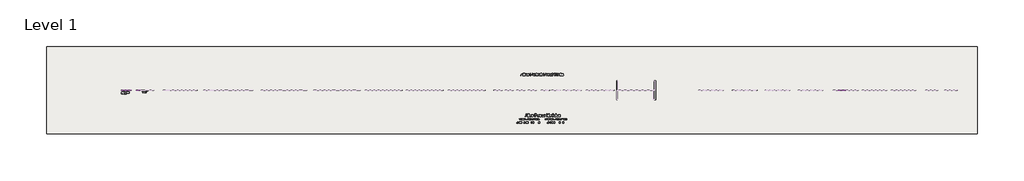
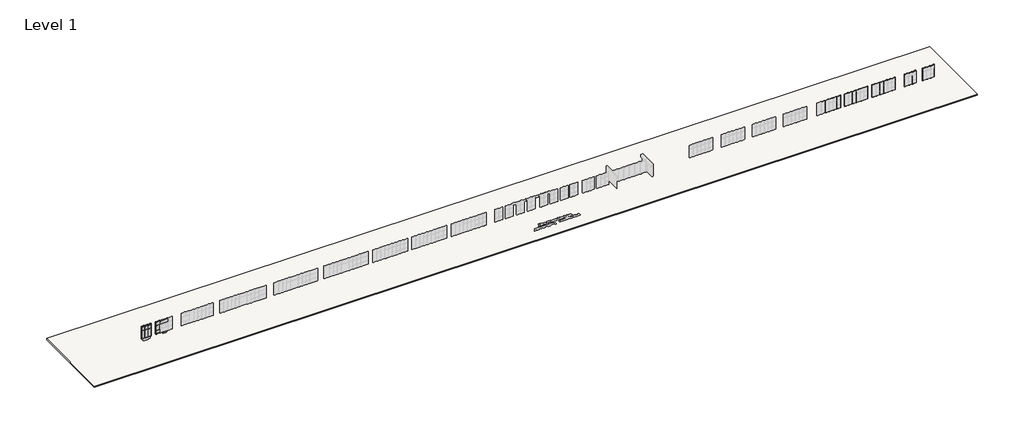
# One storey, part 4 of 22: 72 members, 41 proxies, 1 slab.
"""IFC4 building model written with IfcOpenShell, lengths in millimetres."""

from ifc_helpers import new_model, si_unit, frame, origin, place, context, project, spatial, polyline, outline, extrude, transform, mapped, element, save
from components import fascia_teknion_ceiling_and_base_fpb1_c4170f9c, fascia_teknion_ceiling_and_base_fpb1_a007a032, fascia_teknion_ceiling_and_base_fpb1_8c4cbf86, fascia_teknion_ceiling_and_base_fpb1_7b58b744, fascia_teknion_ceiling_and_base_fpb1_db7fbf47, fascia_teknion_ceiling_and_base_fpb1_da01dcf5, fascia_teknion_ceiling_and_base_fpb1_d08a77d9, fascia_teknion_ceiling_and_base_fpb1_a621ab91, frame_teknion_horizontal_rail_569d168c, level_i_259d5150, level_i_3af106d6, level_ii_eb892959, level_ii_fe5f90b5, level_iii_4beb9e8a, level_iii_939e849f, panel_fascia_teknion_level_iii_81271ac9, panel_fascia_teknion_segmented_level_i_5ebf3f09, panel_fascia_teknion_segmented_level_i_162446fb, panel_fascia_teknion_segmented_level_i_b8129890, panel_fascia_teknion_segmented_level_i_225f9e7f, panel_fascia_teknion_segmented_level_i_2509cfa8, panel_fascia_teknion_segmented_level_i_db7779ad, panel_fascia_teknion_segmented_level_ii_6a035215, panel_fascia_teknion_segmented_level_ii_3678de09, panel_fascia_teknion_segmented_level_ii_8e019854, panel_fascia_teknion_segmented_level_ii_fc398785, panel_fascia_teknion_segmented_level_ii_5e5265e3, panel_fascia_teknion_segmented_level_ii_f3f521e5, rectangular_mullion_7808c36e, rectangular_mullion_a1951c69, rectangular_mullion_54c82f83, rectangular_mullion_553b35be, rectangular_mullion_d5ff06bb, rectangular_mullion_frame_teknion_vertical_post_1d992eec, rectangular_mullion_frame_teknion_vertical_post_bb975e52, rectangular_mullion_frame_teknion_vertical_post_526a61ed, rectangular_mullion_frame_teknion_vertical_post_05f5e206, rectangular_mullion_frame_teknion_vertical_post_5ea4eea9, rectangular_mullion_frame_teknion_vertical_post_1fa3a907

model = new_model("IFC4")

# Units and contexts
model_context = context("Model", 3, world=origin())
ifc_project = project(units=[si_unit("LENGTHUNIT", "METRE", prefix="MILLI")], contexts=[model_context])

# Site, building, storey
site = spatial("IfcSite", under=ifc_project)
building = spatial("IfcBuilding", under=site)
storey = spatial("IfcBuildingStorey", under=building, Name="Level 1", Elevation=0.0)

# Proxies
placement = place(None, origin())
fascia_teknion_ceiling_and_base_fpb1_shape = fascia_teknion_ceiling_and_base_fpb1_c4170f9c(model_context)
element("IfcBuildingElementProxy", 1, Name="Fascia-Teknion-Ceiling_and_Base : FPB1", ObjectType="Fascia-Teknion-Ceiling_and_Base : FPB1", at=placement, inside=storey, context=model_context, shape_type="MappedRepresentation", body=[
    mapped(fascia_teknion_ceiling_and_base_fpb1_shape, transform((-103626.4805069, 1843.3402105, 15.875), x_axis=(-1.0, 0.0, 0.0), y_axis=(0.0, -1.0, 0.0), z_axis=(0.0, 0.0, 1.0))),
])
fascia_teknion_ceiling_and_base_fpb1_2_shape = fascia_teknion_ceiling_and_base_fpb1_a007a032(model_context)
element("IfcBuildingElementProxy", 2, Name="Fascia-Teknion-Ceiling_and_Base : FPB1", ObjectType="Fascia-Teknion-Ceiling_and_Base : FPB1", at=placement, inside=storey, context=model_context, shape_type="MappedRepresentation", body=[
    mapped(fascia_teknion_ceiling_and_base_fpb1_2_shape, transform((-103626.4805069, 1781.3642105, 15.875), x_axis=(-1.0, 0.0, 0.0), y_axis=(0.0, -1.0, 0.0), z_axis=(0.0, 0.0, 1.0))),
])
fascia_teknion_ceiling_and_base_fpb1_3_shape = fascia_teknion_ceiling_and_base_fpb1_8c4cbf86(model_context)
element("IfcBuildingElementProxy", 3, Name="Fascia-Teknion-Ceiling_and_Base : FPB1", ObjectType="Fascia-Teknion-Ceiling_and_Base : FPB1", at=placement, inside=storey, context=model_context, shape_type="MappedRepresentation", body=[
    mapped(fascia_teknion_ceiling_and_base_fpb1_3_shape, transform((-105568.087543, 1762.344815, -91.821), x_axis=(1.0, 0.0, 0.0), y_axis=(0.0, 1.0, 0.0), z_axis=(0.0, 0.0, 1.0))),
])
fascia_teknion_ceiling_and_base_fpb1_4_shape = fascia_teknion_ceiling_and_base_fpb1_7b58b744(model_context)
element("IfcBuildingElementProxy", 4, Name="Fascia-Teknion-Ceiling_and_Base : FPB1", ObjectType="Fascia-Teknion-Ceiling_and_Base : FPB1", at=placement, inside=storey, context=model_context, shape_type="MappedRepresentation", body=[
    mapped(fascia_teknion_ceiling_and_base_fpb1_4_shape, transform((-107078.0976993, 1762.344815, -91.821), x_axis=(1.0, 0.0, 0.0), y_axis=(0.0, 1.0, 0.0), z_axis=(0.0, 0.0, 1.0))),
])
fascia_teknion_ceiling_and_base_fpb1_5_shape = fascia_teknion_ceiling_and_base_fpb1_db7fbf47(model_context)
element("IfcBuildingElementProxy", 5, Name="Fascia-Teknion-Ceiling_and_Base : FPB1", ObjectType="Fascia-Teknion-Ceiling_and_Base : FPB1", at=placement, inside=storey, context=model_context, shape_type="MappedRepresentation", body=[
    mapped(fascia_teknion_ceiling_and_base_fpb1_5_shape, transform((-106323.0926212, 1762.344815, -91.821), x_axis=(1.0, 0.0, 0.0), y_axis=(0.0, 1.0, 0.0), z_axis=(0.0, 0.0, 1.0))),
])
fascia_teknion_ceiling_and_base_fpb1_6_shape = fascia_teknion_ceiling_and_base_fpb1_da01dcf5(model_context)
element("IfcBuildingElementProxy", 6, Name="Fascia-Teknion-Ceiling_and_Base : FPB1", ObjectType="Fascia-Teknion-Ceiling_and_Base : FPB1", at=placement, inside=storey, context=model_context, shape_type="MappedRepresentation", body=[
    mapped(fascia_teknion_ceiling_and_base_fpb1_6_shape, transform((-106323.0926212, 1862.357315, -91.821), x_axis=(1.0, 0.0, 0.0), y_axis=(0.0, 1.0, 0.0), z_axis=(0.0, 0.0, 1.0))),
])
fascia_teknion_ceiling_and_base_fpb1_7_shape = fascia_teknion_ceiling_and_base_fpb1_d08a77d9(model_context)
element("IfcBuildingElementProxy", 7, Name="Fascia-Teknion-Ceiling_and_Base : FPB1", ObjectType="Fascia-Teknion-Ceiling_and_Base : FPB1", at=placement, inside=storey, context=model_context, shape_type="MappedRepresentation", body=[
    mapped(fascia_teknion_ceiling_and_base_fpb1_7_shape, transform((-107078.0976993, 1862.357315, -91.821), x_axis=(1.0, 0.0, 0.0), y_axis=(0.0, 1.0, 0.0), z_axis=(0.0, 0.0, 1.0))),
])
fascia_teknion_ceiling_and_base_fpb1_8_shape = fascia_teknion_ceiling_and_base_fpb1_a621ab91(model_context)
element("IfcBuildingElementProxy", 8, Name="Fascia-Teknion-Ceiling_and_Base : FPB1", ObjectType="Fascia-Teknion-Ceiling_and_Base : FPB1", at=placement, inside=storey, context=model_context, shape_type="MappedRepresentation", body=[
    mapped(fascia_teknion_ceiling_and_base_fpb1_8_shape, transform((-105568.087543, 1862.357315, -91.821), x_axis=(1.0, 0.0, 0.0), y_axis=(0.0, 1.0, 0.0), z_axis=(0.0, 0.0, 1.0))),
])
element("IfcBuildingElementProxy", 9, Name="Fascia-Teknion-Ceiling_and_Base : FPC", ObjectType="Fascia-Teknion-Ceiling_and_Base : FPC", at=placement, inside=storey, context=model_context, shape_type="MappedRepresentation", body=[
    mapped(fascia_teknion_ceiling_and_base_fpb1_shape, transform((-103626.4805069, 1843.3402105, 2900.045), x_axis=(-1.0, 0.0, 0.0), y_axis=(0.0, -1.0, 0.0), z_axis=(0.0, 0.0, 1.0))),
])
element("IfcBuildingElementProxy", 10, Name="Fascia-Teknion-Ceiling_and_Base : FPC", ObjectType="Fascia-Teknion-Ceiling_and_Base : FPC", at=placement, inside=storey, context=model_context, shape_type="MappedRepresentation", body=[
    mapped(fascia_teknion_ceiling_and_base_fpb1_2_shape, transform((-103626.4805069, 1781.3642105, 2950.845), x_axis=(-1.0, 0.0, 0.0), y_axis=(0.0, -1.0, 0.0), z_axis=(0.0, 0.0, 1.0))),
])
element("IfcBuildingElementProxy", 11, Name="Fascia-Teknion-Ceiling_and_Base : FPC", ObjectType="Fascia-Teknion-Ceiling_and_Base : FPC", at=placement, inside=storey, context=model_context, shape_type="MappedRepresentation", body=[
    mapped(fascia_teknion_ceiling_and_base_fpb1_3_shape, transform((-105568.087543, 1762.344815, 2900.045), x_axis=(1.0, 0.0, 0.0), y_axis=(0.0, 1.0, 0.0), z_axis=(0.0, 0.0, 1.0))),
])
element("IfcBuildingElementProxy", 12, Name="Fascia-Teknion-Ceiling_and_Base : FPC", ObjectType="Fascia-Teknion-Ceiling_and_Base : FPC", at=placement, inside=storey, context=model_context, shape_type="MappedRepresentation", body=[
    mapped(fascia_teknion_ceiling_and_base_fpb1_4_shape, transform((-107078.0976993, 1762.344815, 2900.045), x_axis=(1.0, 0.0, 0.0), y_axis=(0.0, 1.0, 0.0), z_axis=(0.0, 0.0, 1.0))),
])
element("IfcBuildingElementProxy", 13, Name="Fascia-Teknion-Ceiling_and_Base : FPC", ObjectType="Fascia-Teknion-Ceiling_and_Base : FPC", at=placement, inside=storey, context=model_context, shape_type="MappedRepresentation", body=[
    mapped(fascia_teknion_ceiling_and_base_fpb1_5_shape, transform((-106323.0926212, 1762.344815, 2900.045), x_axis=(1.0, 0.0, 0.0), y_axis=(0.0, 1.0, 0.0), z_axis=(0.0, 0.0, 1.0))),
])
element("IfcBuildingElementProxy", 14, Name="Fascia-Teknion-Ceiling_and_Base : FPC", ObjectType="Fascia-Teknion-Ceiling_and_Base : FPC", at=placement, inside=storey, context=model_context, shape_type="MappedRepresentation", body=[
    mapped(fascia_teknion_ceiling_and_base_fpb1_6_shape, transform((-106323.0926212, 1862.357315, 2900.045), x_axis=(1.0, 0.0, 0.0), y_axis=(0.0, 1.0, 0.0), z_axis=(0.0, 0.0, 1.0))),
])
element("IfcBuildingElementProxy", 15, Name="Fascia-Teknion-Ceiling_and_Base : FPC", ObjectType="Fascia-Teknion-Ceiling_and_Base : FPC", at=placement, inside=storey, context=model_context, shape_type="MappedRepresentation", body=[
    mapped(fascia_teknion_ceiling_and_base_fpb1_7_shape, transform((-107078.0976993, 1862.357315, 2900.045), x_axis=(1.0, 0.0, 0.0), y_axis=(0.0, 1.0, 0.0), z_axis=(0.0, 0.0, 1.0))),
])
element("IfcBuildingElementProxy", 16, Name="Fascia-Teknion-Ceiling_and_Base : FPC", ObjectType="Fascia-Teknion-Ceiling_and_Base : FPC", at=placement, inside=storey, context=model_context, shape_type="MappedRepresentation", body=[
    mapped(fascia_teknion_ceiling_and_base_fpb1_8_shape, transform((-105568.087543, 1862.357315, 2900.045), x_axis=(1.0, 0.0, 0.0), y_axis=(0.0, 1.0, 0.0), z_axis=(0.0, 0.0, 1.0))),
])
frame_teknion_horizontal_rail_shape = frame_teknion_horizontal_rail_569d168c(model_context)
element("IfcBuildingElementProxy", 17, Name="Frame-Teknion-Horizontal_Rail : FPKK", ObjectType="Frame-Teknion-Horizontal_Rail : FPKK", at=placement, inside=storey, context=model_context, shape_type="MappedRepresentation", body=[
    mapped(frame_teknion_horizontal_rail_shape, transform((-103626.4805069, 1812.3522105, 151.257), x_axis=(-1.0, 0.0, 0.0), y_axis=(0.0, -1.0, 0.0), z_axis=(0.0, 0.0, 1.0))),
])
element("IfcBuildingElementProxy", 18, Name="Frame-Teknion-Horizontal_Rail : FPKK", ObjectType="Frame-Teknion-Horizontal_Rail : FPKK", at=placement, inside=storey, context=model_context, shape_type="MappedRepresentation", body=[
    mapped(frame_teknion_horizontal_rail_shape, transform((-103626.4805069, 1812.3522105, 2898.3305), x_axis=(-1.0, 0.0, 0.0), y_axis=(0.0, -1.0, 0.0), z_axis=(0.0, 0.0, 1.0))),
])
element("IfcBuildingElementProxy", 19, Name="Frame-Teknion-Horizontal_Rail : FPKK", ObjectType="Frame-Teknion-Horizontal_Rail : FPKK", at=placement, inside=storey, context=model_context, shape_type="MappedRepresentation", body=[
    mapped(frame_teknion_horizontal_rail_shape, transform((-103626.4805069, 1812.3522105, 917.575), x_axis=(-1.0, 0.0, 0.0), y_axis=(0.0, -1.0, 0.0), z_axis=(0.0, 0.0, 1.0))),
])
element("IfcBuildingElementProxy", 20, Name="Frame-Teknion-Horizontal_Rail : FPKK", ObjectType="Frame-Teknion-Horizontal_Rail : FPKK", at=placement, inside=storey, context=model_context, shape_type="MappedRepresentation", body=[
    mapped(frame_teknion_horizontal_rail_shape, transform((-103626.4805069, 1812.3522105, 2136.775), x_axis=(-1.0, 0.0, 0.0), y_axis=(0.0, -1.0, 0.0), z_axis=(0.0, 0.0, 1.0))),
])
element("IfcBuildingElementProxy", 21, Name="Frame-Teknion-Horizontal_Rail : FPKK", ObjectType="Frame-Teknion-Horizontal_Rail : FPKK", at=placement, inside=storey, context=model_context, shape_type="MappedRepresentation", body=[
    mapped(frame_teknion_horizontal_rail_shape, transform((-103626.4805069, 1812.3522105, 97.155), x_axis=(-1.0, 0.0, 0.0), y_axis=(0.0, -1.0, 0.0), z_axis=(0.0, 0.0, 1.0))),
])
element("IfcBuildingElementProxy", 22, Name="Frame-Teknion-Horizontal_Rail : FPKK", ObjectType="Frame-Teknion-Horizontal_Rail : FPKK", at=placement, inside=storey, context=model_context, shape_type="MappedRepresentation", body=[
    mapped(frame_teknion_horizontal_rail_shape, transform((-103626.4805069, 1812.3522105, 2949.1305), x_axis=(-1.0, 0.0, 0.0), y_axis=(0.0, -1.0, 0.0), z_axis=(0.0, 0.0, 1.0))),
])
level_i_shape = level_i_259d5150(model_context)
element("IfcBuildingElementProxy", 23, Name="Panel-Fascia-Teknion-Altos-Standard : Level I", ObjectType="Panel-Fascia-Teknion-Altos-Standard : Level I", at=placement, inside=storey, context=model_context, shape_type="MappedRepresentation", body=[
    mapped(level_i_shape, transform((-103626.4805069, 1852.8652105, 151.257), x_axis=(-1.0, 0.0, 0.0), y_axis=(0.0, -1.0, 0.0), z_axis=(0.0, 0.0, 1.0))),
])
level_i_2_shape = level_i_3af106d6(model_context)
element("IfcBuildingElementProxy", 24, Name="Panel-Fascia-Teknion-Altos-Standard : Level I", ObjectType="Panel-Fascia-Teknion-Altos-Standard : Level I", at=placement, inside=storey, context=model_context, shape_type="MappedRepresentation", body=[
    mapped(level_i_2_shape, transform((-103626.4805069, 1771.8392105, 100.457), x_axis=(-1.0, 0.0, 0.0), y_axis=(0.0, -1.0, 0.0), z_axis=(0.0, 0.0, 1.0))),
])
level_ii_shape = level_ii_eb892959(model_context)
element("IfcBuildingElementProxy", 25, Name="Panel-Fascia-Teknion-Altos-Standard : Level II", ObjectType="Panel-Fascia-Teknion-Altos-Standard : Level II", at=placement, inside=storey, context=model_context, shape_type="MappedRepresentation", body=[
    mapped(level_ii_shape, transform((-103626.4805069, 1852.8652105, 917.575), x_axis=(-1.0, 0.0, 0.0), y_axis=(0.0, -1.0, 0.0), z_axis=(0.0, 0.0, 1.0))),
])
level_ii_2_shape = level_ii_fe5f90b5(model_context)
element("IfcBuildingElementProxy", 26, Name="Panel-Fascia-Teknion-Altos-Standard : Level II", ObjectType="Panel-Fascia-Teknion-Altos-Standard : Level II", at=placement, inside=storey, context=model_context, shape_type="MappedRepresentation", body=[
    mapped(level_ii_2_shape, transform((-103626.4805069, 1771.8392105, 917.575), x_axis=(-1.0, 0.0, 0.0), y_axis=(0.0, -1.0, 0.0), z_axis=(0.0, 0.0, 1.0))),
])
level_iii_shape = level_iii_4beb9e8a(model_context)
element("IfcBuildingElementProxy", 27, Name="Panel-Fascia-Teknion-Altos-Standard : Level III", ObjectType="Panel-Fascia-Teknion-Altos-Standard : Level III", at=placement, inside=storey, context=model_context, shape_type="MappedRepresentation", body=[
    mapped(level_iii_shape, transform((-103626.4805069, 1771.8392105, 2136.775), x_axis=(-1.0, 0.0, 0.0), y_axis=(0.0, -1.0, 0.0), z_axis=(0.0, 0.0, 1.0))),
])
level_iii_2_shape = level_iii_939e849f(model_context)
element("IfcBuildingElementProxy", 28, Name="Panel-Fascia-Teknion-Altos-Standard : Level III", ObjectType="Panel-Fascia-Teknion-Altos-Standard : Level III", at=placement, inside=storey, context=model_context, shape_type="MappedRepresentation", body=[
    mapped(level_iii_2_shape, transform((-103626.4805069, 1852.8652105, 2136.775), x_axis=(-1.0, 0.0, 0.0), y_axis=(0.0, -1.0, 0.0), z_axis=(0.0, 0.0, 1.0))),
])
panel_fascia_teknion_level_iii_shape = panel_fascia_teknion_level_iii_81271ac9(model_context)
element("IfcBuildingElementProxy", 29, Name="Panel-Fascia-Teknion : Level III", ObjectType="Panel-Fascia-Teknion : Level III", at=placement, inside=storey, context=model_context, shape_type="MappedRepresentation", body=[
    mapped(panel_fascia_teknion_level_iii_shape, transform((-102160.2754287, 1771.869815, 2136.775), x_axis=(-1.0, 0.0, 0.0), y_axis=(0.0, -1.0, 0.0), z_axis=(0.0, 0.0, 1.0))),
])
panel_fascia_teknion_segmented_level_i_shape = panel_fascia_teknion_segmented_level_i_5ebf3f09(model_context)
element("IfcBuildingElementProxy", 30, Name="Panel-Fascia-Teknion : Segmented Level I", ObjectType="Panel-Fascia-Teknion : Segmented Level I", at=placement, inside=storey, context=model_context, shape_type="MappedRepresentation", body=[
    mapped(panel_fascia_teknion_segmented_level_i_shape, transform((-106323.0926212, 1771.869815, 43.561), x_axis=(1.0, 0.0, 0.0), y_axis=(0.0, 1.0, 0.0), z_axis=(0.0, 0.0, 1.0))),
])
panel_fascia_teknion_segmented_level_i_2_shape = panel_fascia_teknion_segmented_level_i_162446fb(model_context)
element("IfcBuildingElementProxy", 31, Name="Panel-Fascia-Teknion : Segmented Level I", ObjectType="Panel-Fascia-Teknion : Segmented Level I", at=placement, inside=storey, context=model_context, shape_type="MappedRepresentation", body=[
    mapped(panel_fascia_teknion_segmented_level_i_2_shape, transform((-106323.0926212, 1852.832315, 43.561), x_axis=(1.0, 0.0, 0.0), y_axis=(0.0, 1.0, 0.0), z_axis=(0.0, 0.0, 1.0))),
])
panel_fascia_teknion_segmented_level_i_3_shape = panel_fascia_teknion_segmented_level_i_b8129890(model_context)
element("IfcBuildingElementProxy", 32, Name="Panel-Fascia-Teknion : Segmented Level I", ObjectType="Panel-Fascia-Teknion : Segmented Level I", at=placement, inside=storey, context=model_context, shape_type="MappedRepresentation", body=[
    mapped(panel_fascia_teknion_segmented_level_i_3_shape, transform((-107078.0976993, 1771.869815, 43.561), x_axis=(1.0, 0.0, 0.0), y_axis=(0.0, 1.0, 0.0), z_axis=(0.0, 0.0, 1.0))),
])
panel_fascia_teknion_segmented_level_i_4_shape = panel_fascia_teknion_segmented_level_i_225f9e7f(model_context)
element("IfcBuildingElementProxy", 33, Name="Panel-Fascia-Teknion : Segmented Level I", ObjectType="Panel-Fascia-Teknion : Segmented Level I", at=placement, inside=storey, context=model_context, shape_type="MappedRepresentation", body=[
    mapped(panel_fascia_teknion_segmented_level_i_4_shape, transform((-107078.0976993, 1852.832315, 43.561), x_axis=(1.0, 0.0, 0.0), y_axis=(0.0, 1.0, 0.0), z_axis=(0.0, 0.0, 1.0))),
])
panel_fascia_teknion_segmented_level_i_5_shape = panel_fascia_teknion_segmented_level_i_2509cfa8(model_context)
element("IfcBuildingElementProxy", 34, Name="Panel-Fascia-Teknion : Segmented Level I", ObjectType="Panel-Fascia-Teknion : Segmented Level I", at=placement, inside=storey, context=model_context, shape_type="MappedRepresentation", body=[
    mapped(panel_fascia_teknion_segmented_level_i_5_shape, transform((-105568.087543, 1771.869815, 43.561), x_axis=(1.0, 0.0, 0.0), y_axis=(0.0, 1.0, 0.0), z_axis=(0.0, 0.0, 1.0))),
])
panel_fascia_teknion_segmented_level_i_6_shape = panel_fascia_teknion_segmented_level_i_db7779ad(model_context)
element("IfcBuildingElementProxy", 35, Name="Panel-Fascia-Teknion : Segmented Level I", ObjectType="Panel-Fascia-Teknion : Segmented Level I", at=placement, inside=storey, context=model_context, shape_type="MappedRepresentation", body=[
    mapped(panel_fascia_teknion_segmented_level_i_6_shape, transform((-105568.087543, 1852.832315, 43.561), x_axis=(1.0, 0.0, 0.0), y_axis=(0.0, 1.0, 0.0), z_axis=(0.0, 0.0, 1.0))),
])
panel_fascia_teknion_segmented_level_ii_shape = panel_fascia_teknion_segmented_level_ii_6a035215(model_context)
element("IfcBuildingElementProxy", 36, Name="Panel-Fascia-Teknion : Segmented Level II", ObjectType="Panel-Fascia-Teknion : Segmented Level II", at=placement, inside=storey, context=model_context, shape_type="MappedRepresentation", body=[
    mapped(panel_fascia_teknion_segmented_level_ii_shape, transform((-106323.0926212, 1771.869815, 2024.761), x_axis=(1.0, 0.0, 0.0), y_axis=(0.0, 1.0, 0.0), z_axis=(0.0, 0.0, 1.0))),
])
panel_fascia_teknion_segmented_level_ii_2_shape = panel_fascia_teknion_segmented_level_ii_3678de09(model_context)
element("IfcBuildingElementProxy", 37, Name="Panel-Fascia-Teknion : Segmented Level II", ObjectType="Panel-Fascia-Teknion : Segmented Level II", at=placement, inside=storey, context=model_context, shape_type="MappedRepresentation", body=[
    mapped(panel_fascia_teknion_segmented_level_ii_2_shape, transform((-106323.0926212, 1852.832315, 2024.761), x_axis=(1.0, 0.0, 0.0), y_axis=(0.0, 1.0, 0.0), z_axis=(0.0, 0.0, 1.0))),
])
panel_fascia_teknion_segmented_level_ii_3_shape = panel_fascia_teknion_segmented_level_ii_8e019854(model_context)
element("IfcBuildingElementProxy", 38, Name="Panel-Fascia-Teknion : Segmented Level II", ObjectType="Panel-Fascia-Teknion : Segmented Level II", at=placement, inside=storey, context=model_context, shape_type="MappedRepresentation", body=[
    mapped(panel_fascia_teknion_segmented_level_ii_3_shape, transform((-107078.0976993, 1771.869815, 2024.761), x_axis=(1.0, 0.0, 0.0), y_axis=(0.0, 1.0, 0.0), z_axis=(0.0, 0.0, 1.0))),
])
panel_fascia_teknion_segmented_level_ii_4_shape = panel_fascia_teknion_segmented_level_ii_fc398785(model_context)
element("IfcBuildingElementProxy", 39, Name="Panel-Fascia-Teknion : Segmented Level II", ObjectType="Panel-Fascia-Teknion : Segmented Level II", at=placement, inside=storey, context=model_context, shape_type="MappedRepresentation", body=[
    mapped(panel_fascia_teknion_segmented_level_ii_4_shape, transform((-107078.0976993, 1852.832315, 2024.761), x_axis=(1.0, 0.0, 0.0), y_axis=(0.0, 1.0, 0.0), z_axis=(0.0, 0.0, 1.0))),
])
panel_fascia_teknion_segmented_level_ii_5_shape = panel_fascia_teknion_segmented_level_ii_5e5265e3(model_context)
element("IfcBuildingElementProxy", 40, Name="Panel-Fascia-Teknion : Segmented Level II", ObjectType="Panel-Fascia-Teknion : Segmented Level II", at=placement, inside=storey, context=model_context, shape_type="MappedRepresentation", body=[
    mapped(panel_fascia_teknion_segmented_level_ii_5_shape, transform((-105568.087543, 1771.869815, 2024.761), x_axis=(1.0, 0.0, 0.0), y_axis=(0.0, 1.0, 0.0), z_axis=(0.0, 0.0, 1.0))),
])
panel_fascia_teknion_segmented_level_ii_6_shape = panel_fascia_teknion_segmented_level_ii_f3f521e5(model_context)
element("IfcBuildingElementProxy", 41, Name="Panel-Fascia-Teknion : Segmented Level II", ObjectType="Panel-Fascia-Teknion : Segmented Level II", at=placement, inside=storey, context=model_context, shape_type="MappedRepresentation", body=[
    mapped(panel_fascia_teknion_segmented_level_ii_6_shape, transform((-105568.087543, 1852.832315, 2024.761), x_axis=(1.0, 0.0, 0.0), y_axis=(0.0, 1.0, 0.0), z_axis=(0.0, 0.0, 1.0))),
])

# Members
rectangular_mullion_shape = rectangular_mullion_7808c36e(model_context)
element("IfcMember", 42, ObjectType="Rectangular Mullion : Frame-Teknion-OptosLP-Ceiling_Top_Spacer", at=placement, inside=storey, context=model_context, shape_type="MappedRepresentation", body=[
    mapped(rectangular_mullion_shape, transform((74753.5073788, 1812.3522105, 3048.0), x_axis=(0.0, 0.0, 1.0), y_axis=(0.0, -1.0, 0.0), z_axis=(1.0, 0.0, 0.0))),
])
element("IfcMember", 43, ObjectType="Rectangular Mullion : Frame-Teknion-OptosLP-Ceiling_Top_Spacer", at=placement, inside=storey, context=model_context, shape_type="MappedRepresentation", body=[
    mapped(rectangular_mullion_shape, transform((76277.5073788, 1812.3522105, 3048.0), x_axis=(0.0, 0.0, 1.0), y_axis=(0.0, 1.0, 0.0), z_axis=(-1.0, 0.0, 0.0))),
])
rectangular_mullion_2_shape = rectangular_mullion_a1951c69(model_context)
element("IfcMember", 44, ObjectType="Rectangular Mullion : Frame-Teknion-Altos-Base_Channel", at=placement, inside=storey, context=model_context, shape_type="MappedRepresentation", body=[
    mapped(rectangular_mullion_2_shape, transform((72010.3073788, 1812.3522105, 0.0), x_axis=(0.0, 0.0, -1.0), y_axis=(0.0, -1.0, 0.0), z_axis=(-1.0, 0.0, 0.0))),
])
element("IfcMember", 45, ObjectType="Rectangular Mullion : Frame-Teknion-Altos-Base_Channel", at=placement, inside=storey, context=model_context, shape_type="MappedRepresentation", body=[
    mapped(rectangular_mullion_2_shape, transform((79020.7073788, 1812.3522105, 0.0), x_axis=(0.0, 0.0, -1.0), y_axis=(0.0, 1.0, 0.0), z_axis=(1.0, 0.0, 0.0))),
])
element("IfcMember", 46, ObjectType="Rectangular Mullion : Frame-Teknion-OptosLP-Ceiling_Top_Spacer", at=placement, inside=storey, context=model_context, shape_type="MappedRepresentation", body=[
    mapped(rectangular_mullion_shape, transform((72924.7073788, 1812.3522105, 3048.0), x_axis=(0.0, 0.0, 1.0), y_axis=(0.0, -1.0, 0.0), z_axis=(1.0, 0.0, 0.0))),
])
element("IfcMember", 47, ObjectType="Rectangular Mullion : Frame-Teknion-OptosLP-Ceiling_Top_Spacer", at=placement, inside=storey, context=model_context, shape_type="MappedRepresentation", body=[
    mapped(rectangular_mullion_shape, transform((78106.3073788, 1812.3522105, 3048.0), x_axis=(0.0, 0.0, 1.0), y_axis=(0.0, 1.0, 0.0), z_axis=(-1.0, 0.0, 0.0))),
])
element("IfcMember", 48, ObjectType="Rectangular Mullion : Frame-Teknion-Altos-Base_Channel", at=placement, inside=storey, context=model_context, shape_type="MappedRepresentation", body=[
    mapped(rectangular_mullion_2_shape, transform((72924.7073788, 1812.3522105, 0.0), x_axis=(0.0, 0.0, -1.0), y_axis=(0.0, -1.0, 0.0), z_axis=(-1.0, 0.0, 0.0))),
])
element("IfcMember", 49, ObjectType="Rectangular Mullion : Frame-Teknion-Altos-Base_Channel", at=placement, inside=storey, context=model_context, shape_type="MappedRepresentation", body=[
    mapped(rectangular_mullion_2_shape, transform((78106.3073788, 1812.3522105, 0.0), x_axis=(0.0, 0.0, -1.0), y_axis=(0.0, 1.0, 0.0), z_axis=(1.0, 0.0, 0.0))),
])
element("IfcMember", 50, ObjectType="Rectangular Mullion : Frame-Teknion-OptosLP-Ceiling_Top_Spacer", at=placement, inside=storey, context=model_context, shape_type="MappedRepresentation", body=[
    mapped(rectangular_mullion_shape, transform((73839.1073788, 1812.3522105, 3048.0), x_axis=(0.0, 0.0, 1.0), y_axis=(0.0, -1.0, 0.0), z_axis=(1.0, 0.0, 0.0))),
])
element("IfcMember", 51, ObjectType="Rectangular Mullion : Frame-Teknion-OptosLP-Ceiling_Top_Spacer", at=placement, inside=storey, context=model_context, shape_type="MappedRepresentation", body=[
    mapped(rectangular_mullion_shape, transform((77191.9073788, 1812.3522105, 3048.0), x_axis=(0.0, 0.0, 1.0), y_axis=(0.0, 1.0, 0.0), z_axis=(-1.0, 0.0, 0.0))),
])
element("IfcMember", 52, ObjectType="Rectangular Mullion : Frame-Teknion-Altos-Base_Channel", at=placement, inside=storey, context=model_context, shape_type="MappedRepresentation", body=[
    mapped(rectangular_mullion_2_shape, transform((73839.1073788, 1812.3522105, 0.0), x_axis=(0.0, 0.0, -1.0), y_axis=(0.0, -1.0, 0.0), z_axis=(-1.0, 0.0, 0.0))),
])
element("IfcMember", 53, ObjectType="Rectangular Mullion : Frame-Teknion-Altos-Base_Channel", at=placement, inside=storey, context=model_context, shape_type="MappedRepresentation", body=[
    mapped(rectangular_mullion_2_shape, transform((77191.9073788, 1812.3522105, 0.0), x_axis=(0.0, 0.0, -1.0), y_axis=(0.0, 1.0, 0.0), z_axis=(1.0, 0.0, 0.0))),
])
rectangular_mullion_3_shape = rectangular_mullion_54c82f83(model_context)
element("IfcMember", 54, ObjectType="Rectangular Mullion : Frame-Teknion-Altos-Ceiling_Channel", at=placement, inside=storey, context=model_context, shape_type="MappedRepresentation", body=[
    mapped(rectangular_mullion_3_shape, transform((56986.2425116, 1812.3522105, 3048.0), x_axis=(0.0, 0.0, 1.0), y_axis=(0.0, -1.0, 0.0), z_axis=(1.0, 0.0, 0.0))),
])
element("IfcMember", 55, ObjectType="Rectangular Mullion : Frame-Teknion-Altos-Ceiling_Channel", at=placement, inside=storey, context=model_context, shape_type="MappedRepresentation", body=[
    mapped(rectangular_mullion_3_shape, transform((69838.0248876, 1812.3522105, 3048.0), x_axis=(0.0, 0.0, 1.0), y_axis=(0.0, -1.0, 0.0), z_axis=(1.0, 0.0, 0.0))),
])
element("IfcMember", 56, ObjectType="Rectangular Mullion : Frame-Teknion-Altos-Ceiling_Channel", at=placement, inside=storey, context=model_context, shape_type="MappedRepresentation", body=[
    mapped(rectangular_mullion_3_shape, transform((65280.0147314, 1812.3522105, 3048.0), x_axis=(0.0, 0.0, 1.0), y_axis=(0.0, -1.0, 0.0), z_axis=(1.0, 0.0, 0.0))),
])
element("IfcMember", 57, ObjectType="Rectangular Mullion : Frame-Teknion-Altos-Ceiling_Channel", at=placement, inside=storey, context=model_context, shape_type="MappedRepresentation", body=[
    mapped(rectangular_mullion_3_shape, transform((63356.2895288, 1812.3522105, 3048.0), x_axis=(0.0, 0.0, 1.0), y_axis=(0.0, -1.0, 0.0), z_axis=(1.0, 0.0, 0.0))),
])
element("IfcMember", 58, ObjectType="Rectangular Mullion : Frame-Teknion-Altos-Ceiling_Channel", at=placement, inside=storey, context=model_context, shape_type="MappedRepresentation", body=[
    mapped(rectangular_mullion_3_shape, transform((58798.2793725, 1812.3522105, 3048.0), x_axis=(0.0, 0.0, 1.0), y_axis=(0.0, -1.0, 0.0), z_axis=(1.0, 0.0, 0.0))),
])
rectangular_mullion_4_shape = rectangular_mullion_553b35be(model_context)
element("IfcMember", 59, ObjectType="Rectangular Mullion : Frame-Teknion-Altos-Base_Channel", at=placement, inside=storey, context=model_context, shape_type="MappedRepresentation", body=[
    mapped(rectangular_mullion_4_shape, transform((56113.8120429, 1812.3522105, 0.0), x_axis=(0.0, 0.0, -1.0), y_axis=(0.0, -1.0, 0.0), z_axis=(-1.0, 0.0, 0.0))),
])
element("IfcMember", 60, ObjectType="Rectangular Mullion : Frame-Teknion-Altos-Base_Channel", at=placement, inside=storey, context=model_context, shape_type="MappedRepresentation", body=[
    mapped(rectangular_mullion_4_shape, transform((64407.5842626, 1812.3522105, 0.0), x_axis=(0.0, 0.0, -1.0), y_axis=(0.0, -1.0, 0.0), z_axis=(-1.0, 0.0, 0.0))),
])
element("IfcMember", 61, ObjectType="Rectangular Mullion : Frame-Teknion-Altos-Base_Channel", at=placement, inside=storey, context=model_context, shape_type="MappedRepresentation", body=[
    mapped(rectangular_mullion_4_shape, transform((68965.5944189, 1812.3522105, 0.0), x_axis=(0.0, 0.0, -1.0), y_axis=(0.0, -1.0, 0.0), z_axis=(-1.0, 0.0, 0.0))),
])
element("IfcMember", 62, ObjectType="Rectangular Mullion : Frame-Teknion-Altos-Base_Channel", at=placement, inside=storey, context=model_context, shape_type="MappedRepresentation", body=[
    mapped(rectangular_mullion_4_shape, transform((57925.8489038, 1812.3522105, 0.0), x_axis=(0.0, 0.0, -1.0), y_axis=(0.0, -1.0, 0.0), z_axis=(-1.0, 0.0, 0.0))),
])
element("IfcMember", 63, ObjectType="Rectangular Mullion : Frame-Teknion-Altos-Base_Channel", at=placement, inside=storey, context=model_context, shape_type="MappedRepresentation", body=[
    mapped(rectangular_mullion_4_shape, transform((62483.85906, 1812.3522105, 0.0), x_axis=(0.0, 0.0, -1.0), y_axis=(0.0, -1.0, 0.0), z_axis=(-1.0, 0.0, 0.0))),
])
rectangular_mullion_5_shape = rectangular_mullion_d5ff06bb(model_context)
element("IfcMember", 64, ObjectType="Rectangular Mullion : Frame-Teknion-Altos-Base_Channel", at=placement, inside=storey, context=model_context, shape_type="MappedRepresentation", body=[
    mapped(rectangular_mullion_5_shape, transform((53370.6120429, 1812.3522105, 0.0), x_axis=(0.0, 0.0, -1.0), y_axis=(0.0, -1.0, 0.0), z_axis=(-1.0, 0.0, 0.0))),
])
element("IfcMember", 65, ObjectType="Rectangular Mullion : Frame-Teknion-Altos-Base_Channel", at=placement, inside=storey, context=model_context, shape_type="MappedRepresentation", body=[
    mapped(rectangular_mullion_5_shape, transform((54285.0120429, 1812.3522105, 0.0), x_axis=(0.0, 0.0, -1.0), y_axis=(0.0, -1.0, 0.0), z_axis=(-1.0, 0.0, 0.0))),
])
element("IfcMember", 66, ObjectType="Rectangular Mullion : Frame-Teknion-Altos-Base_Channel", at=placement, inside=storey, context=model_context, shape_type="MappedRepresentation", body=[
    mapped(rectangular_mullion_5_shape, transform((55199.4120429, 1812.3522105, 0.0), x_axis=(0.0, 0.0, -1.0), y_axis=(0.0, -1.0, 0.0), z_axis=(-1.0, 0.0, 0.0))),
])
element("IfcMember", 67, ObjectType="Rectangular Mullion : Frame-Teknion-Altos-Base_Channel", at=placement, inside=storey, context=model_context, shape_type="MappedRepresentation", body=[
    mapped(rectangular_mullion_5_shape, transform((65307.9944189, 1812.3522105, 0.0), x_axis=(0.0, 0.0, -1.0), y_axis=(0.0, -1.0, 0.0), z_axis=(-1.0, 0.0, 0.0))),
])
element("IfcMember", 68, ObjectType="Rectangular Mullion : Frame-Teknion-Altos-Base_Channel", at=placement, inside=storey, context=model_context, shape_type="MappedRepresentation", body=[
    mapped(rectangular_mullion_5_shape, transform((66222.3944189, 1812.3522105, 0.0), x_axis=(0.0, 0.0, -1.0), y_axis=(0.0, -1.0, 0.0), z_axis=(-1.0, 0.0, 0.0))),
])
element("IfcMember", 69, ObjectType="Rectangular Mullion : Frame-Teknion-Altos-Base_Channel", at=placement, inside=storey, context=model_context, shape_type="MappedRepresentation", body=[
    mapped(rectangular_mullion_5_shape, transform((67136.7944189, 1812.3522105, 0.0), x_axis=(0.0, 0.0, -1.0), y_axis=(0.0, -1.0, 0.0), z_axis=(-1.0, 0.0, 0.0))),
])
element("IfcMember", 70, ObjectType="Rectangular Mullion : Frame-Teknion-Altos-Base_Channel", at=placement, inside=storey, context=model_context, shape_type="MappedRepresentation", body=[
    mapped(rectangular_mullion_5_shape, transform((68051.1944189, 1812.3522105, 0.0), x_axis=(0.0, 0.0, -1.0), y_axis=(0.0, -1.0, 0.0), z_axis=(-1.0, 0.0, 0.0))),
])
element("IfcMember", 71, ObjectType="Rectangular Mullion : Frame-Teknion-Altos-Base_Channel", at=placement, inside=storey, context=model_context, shape_type="MappedRepresentation", body=[
    mapped(rectangular_mullion_5_shape, transform((58826.25906, 1812.3522105, 0.0), x_axis=(0.0, 0.0, -1.0), y_axis=(0.0, -1.0, 0.0), z_axis=(-1.0, 0.0, 0.0))),
])
element("IfcMember", 72, ObjectType="Rectangular Mullion : Frame-Teknion-Altos-Base_Channel", at=placement, inside=storey, context=model_context, shape_type="MappedRepresentation", body=[
    mapped(rectangular_mullion_5_shape, transform((59740.65906, 1812.3522105, 0.0), x_axis=(0.0, 0.0, -1.0), y_axis=(0.0, -1.0, 0.0), z_axis=(-1.0, 0.0, 0.0))),
])
element("IfcMember", 73, ObjectType="Rectangular Mullion : Frame-Teknion-Altos-Base_Channel", at=placement, inside=storey, context=model_context, shape_type="MappedRepresentation", body=[
    mapped(rectangular_mullion_5_shape, transform((60655.05906, 1812.3522105, 0.0), x_axis=(0.0, 0.0, -1.0), y_axis=(0.0, -1.0, 0.0), z_axis=(-1.0, 0.0, 0.0))),
])
element("IfcMember", 74, ObjectType="Rectangular Mullion : Frame-Teknion-Altos-Base_Channel", at=placement, inside=storey, context=model_context, shape_type="MappedRepresentation", body=[
    mapped(rectangular_mullion_5_shape, transform((61569.45906, 1812.3522105, 0.0), x_axis=(0.0, 0.0, -1.0), y_axis=(0.0, -1.0, 0.0), z_axis=(-1.0, 0.0, 0.0))),
])
element("IfcMember", 75, ObjectType="Rectangular Mullion : Frame-Teknion-Altos-Ceiling_Channel", at=placement, inside=storey, context=model_context, shape_type="MappedRepresentation", body=[
    mapped(rectangular_mullion_5_shape, transform((53342.6323554, 1812.3522105, 3048.0), x_axis=(0.0, 0.0, 1.0), y_axis=(0.0, -1.0, 0.0), z_axis=(1.0, 0.0, 0.0))),
])
element("IfcMember", 76, ObjectType="Rectangular Mullion : Frame-Teknion-Altos-Ceiling_Channel", at=placement, inside=storey, context=model_context, shape_type="MappedRepresentation", body=[
    mapped(rectangular_mullion_5_shape, transform((54257.0323554, 1812.3522105, 3048.0), x_axis=(0.0, 0.0, 1.0), y_axis=(0.0, -1.0, 0.0), z_axis=(1.0, 0.0, 0.0))),
])
element("IfcMember", 77, ObjectType="Rectangular Mullion : Frame-Teknion-Altos-Ceiling_Channel", at=placement, inside=storey, context=model_context, shape_type="MappedRepresentation", body=[
    mapped(rectangular_mullion_5_shape, transform((55171.4323554, 1812.3522105, 3048.0), x_axis=(0.0, 0.0, 1.0), y_axis=(0.0, -1.0, 0.0), z_axis=(1.0, 0.0, 0.0))),
])
element("IfcMember", 78, ObjectType="Rectangular Mullion : Frame-Teknion-Altos-Ceiling_Channel", at=placement, inside=storey, context=model_context, shape_type="MappedRepresentation", body=[
    mapped(rectangular_mullion_5_shape, transform((56085.8323554, 1812.3522105, 3048.0), x_axis=(0.0, 0.0, 1.0), y_axis=(0.0, -1.0, 0.0), z_axis=(1.0, 0.0, 0.0))),
])
element("IfcMember", 79, ObjectType="Rectangular Mullion : Frame-Teknion-Altos-Ceiling_Channel", at=placement, inside=storey, context=model_context, shape_type="MappedRepresentation", body=[
    mapped(rectangular_mullion_5_shape, transform((66194.4147314, 1812.3522105, 3048.0), x_axis=(0.0, 0.0, 1.0), y_axis=(0.0, -1.0, 0.0), z_axis=(1.0, 0.0, 0.0))),
])
element("IfcMember", 80, ObjectType="Rectangular Mullion : Frame-Teknion-Altos-Ceiling_Channel", at=placement, inside=storey, context=model_context, shape_type="MappedRepresentation", body=[
    mapped(rectangular_mullion_5_shape, transform((67108.8147314, 1812.3522105, 3048.0), x_axis=(0.0, 0.0, 1.0), y_axis=(0.0, -1.0, 0.0), z_axis=(1.0, 0.0, 0.0))),
])
element("IfcMember", 81, ObjectType="Rectangular Mullion : Frame-Teknion-Altos-Ceiling_Channel", at=placement, inside=storey, context=model_context, shape_type="MappedRepresentation", body=[
    mapped(rectangular_mullion_5_shape, transform((68023.2147314, 1812.3522105, 3048.0), x_axis=(0.0, 0.0, 1.0), y_axis=(0.0, -1.0, 0.0), z_axis=(1.0, 0.0, 0.0))),
])
element("IfcMember", 82, ObjectType="Rectangular Mullion : Frame-Teknion-Altos-Ceiling_Channel", at=placement, inside=storey, context=model_context, shape_type="MappedRepresentation", body=[
    mapped(rectangular_mullion_5_shape, transform((68937.6147314, 1812.3522105, 3048.0), x_axis=(0.0, 0.0, 1.0), y_axis=(0.0, -1.0, 0.0), z_axis=(1.0, 0.0, 0.0))),
])
element("IfcMember", 83, ObjectType="Rectangular Mullion : Frame-Teknion-Altos-Ceiling_Channel", at=placement, inside=storey, context=model_context, shape_type="MappedRepresentation", body=[
    mapped(rectangular_mullion_5_shape, transform((59712.6793725, 1812.3522105, 3048.0), x_axis=(0.0, 0.0, 1.0), y_axis=(0.0, -1.0, 0.0), z_axis=(1.0, 0.0, 0.0))),
])
element("IfcMember", 84, ObjectType="Rectangular Mullion : Frame-Teknion-Altos-Ceiling_Channel", at=placement, inside=storey, context=model_context, shape_type="MappedRepresentation", body=[
    mapped(rectangular_mullion_5_shape, transform((60627.0793725, 1812.3522105, 3048.0), x_axis=(0.0, 0.0, 1.0), y_axis=(0.0, -1.0, 0.0), z_axis=(1.0, 0.0, 0.0))),
])
element("IfcMember", 85, ObjectType="Rectangular Mullion : Frame-Teknion-Altos-Ceiling_Channel", at=placement, inside=storey, context=model_context, shape_type="MappedRepresentation", body=[
    mapped(rectangular_mullion_5_shape, transform((61541.4793725, 1812.3522105, 3048.0), x_axis=(0.0, 0.0, 1.0), y_axis=(0.0, -1.0, 0.0), z_axis=(1.0, 0.0, 0.0))),
])
element("IfcMember", 86, ObjectType="Rectangular Mullion : Frame-Teknion-Altos-Ceiling_Channel", at=placement, inside=storey, context=model_context, shape_type="MappedRepresentation", body=[
    mapped(rectangular_mullion_5_shape, transform((62455.8793725, 1812.3522105, 3048.0), x_axis=(0.0, 0.0, 1.0), y_axis=(0.0, -1.0, 0.0), z_axis=(1.0, 0.0, 0.0))),
])
rectangular_mullion_frame_teknion_vertical_post_shape = rectangular_mullion_frame_teknion_vertical_post_1d992eec(model_context)
element("IfcMember", 87, ObjectType="Rectangular Mullion : Frame-Teknion-Vertical_Post", at=placement, inside=storey, context=model_context, shape_type="MappedRepresentation", body=[
    mapped(rectangular_mullion_frame_teknion_vertical_post_shape, transform((72924.7073788, 1812.3522105, 23.3164063), x_axis=(1.0, 0.0, 0.0), y_axis=(0.0, -1.0, 0.0), z_axis=(0.0, 0.0, -1.0))),
])
element("IfcMember", 88, ObjectType="Rectangular Mullion : Frame-Teknion-Vertical_Post", at=placement, inside=storey, context=model_context, shape_type="MappedRepresentation", body=[
    mapped(rectangular_mullion_frame_teknion_vertical_post_shape, transform((73839.1073788, 1812.3522105, 23.3164063), x_axis=(1.0, 0.0, 0.0), y_axis=(0.0, -1.0, 0.0), z_axis=(0.0, 0.0, -1.0))),
])
rectangular_mullion_frame_teknion_vertical_post_2_shape = rectangular_mullion_frame_teknion_vertical_post_bb975e52(model_context)
element("IfcMember", 89, ObjectType="Rectangular Mullion : Frame-Teknion-Vertical_Post", at=placement, inside=storey, context=model_context, shape_type="MappedRepresentation", body=[
    mapped(rectangular_mullion_frame_teknion_vertical_post_2_shape, transform((74753.5073788, 1812.3522105, 23.3164063), x_axis=(1.0, 0.0, 0.0), y_axis=(0.0, -1.0, 0.0), z_axis=(0.0, 0.0, -1.0))),
])
rectangular_mullion_frame_teknion_vertical_post_3_shape = rectangular_mullion_frame_teknion_vertical_post_526a61ed(model_context)
element("IfcMember", 90, ObjectType="Rectangular Mullion : Frame-Teknion-Vertical_Post", at=placement, inside=storey, context=model_context, shape_type="MappedRepresentation", body=[
    mapped(rectangular_mullion_frame_teknion_vertical_post_3_shape, transform((72010.3073788, 1812.3522105, 2985.391839), x_axis=(-1.0, 0.0, 0.0), y_axis=(0.0, -1.0, 0.0), z_axis=(0.0, 0.0, 1.0))),
])
element("IfcMember", 91, ObjectType="Rectangular Mullion : Frame-Teknion-Vertical_Post", at=placement, inside=storey, context=model_context, shape_type="MappedRepresentation", body=[
    mapped(rectangular_mullion_frame_teknion_vertical_post_shape, transform((77191.9073788, 1812.3522105, 23.3164063), x_axis=(-1.0, 0.0, 0.0), y_axis=(0.0, 1.0, 0.0), z_axis=(0.0, 0.0, -1.0))),
])
element("IfcMember", 92, ObjectType="Rectangular Mullion : Frame-Teknion-Vertical_Post", at=placement, inside=storey, context=model_context, shape_type="MappedRepresentation", body=[
    mapped(rectangular_mullion_frame_teknion_vertical_post_shape, transform((78106.3073788, 1812.3522105, 23.3164063), x_axis=(-1.0, 0.0, 0.0), y_axis=(0.0, 1.0, 0.0), z_axis=(0.0, 0.0, -1.0))),
])
element("IfcMember", 93, ObjectType="Rectangular Mullion : Frame-Teknion-Vertical_Post", at=placement, inside=storey, context=model_context, shape_type="MappedRepresentation", body=[
    mapped(rectangular_mullion_frame_teknion_vertical_post_2_shape, transform((76277.5073788, 1812.3522105, 23.3164063), x_axis=(-1.0, 0.0, 0.0), y_axis=(0.0, 1.0, 0.0), z_axis=(0.0, 0.0, -1.0))),
])
element("IfcMember", 94, ObjectType="Rectangular Mullion : Frame-Teknion-Vertical_Post", at=placement, inside=storey, context=model_context, shape_type="MappedRepresentation", body=[
    mapped(rectangular_mullion_frame_teknion_vertical_post_3_shape, transform((79020.7073788, 1812.3522105, 2985.391839), x_axis=(1.0, 0.0, 0.0), y_axis=(0.0, 1.0, 0.0), z_axis=(0.0, 0.0, 1.0))),
])
rectangular_mullion_frame_teknion_vertical_post_4_shape = rectangular_mullion_frame_teknion_vertical_post_05f5e206(model_context)
element("IfcMember", 95, ObjectType="Rectangular Mullion : Frame-Teknion-Vertical_Post", at=placement, inside=storey, context=model_context, shape_type="MappedRepresentation", body=[
    mapped(rectangular_mullion_frame_teknion_vertical_post_4_shape, transform((53356.6221991, 1812.3522105, 0.0), x_axis=(1.0, 0.0, 0.0), y_axis=(0.0, -1.0, 0.0), z_axis=(0.0, 0.0, -1.0))),
])
element("IfcMember", 96, ObjectType="Rectangular Mullion : Frame-Teknion-Vertical_Post", at=placement, inside=storey, context=model_context, shape_type="MappedRepresentation", body=[
    mapped(rectangular_mullion_frame_teknion_vertical_post_4_shape, transform((54271.0221991, 1812.3522105, 0.0), x_axis=(1.0, 0.0, 0.0), y_axis=(0.0, -1.0, 0.0), z_axis=(0.0, 0.0, -1.0))),
])
element("IfcMember", 97, ObjectType="Rectangular Mullion : Frame-Teknion-Vertical_Post", at=placement, inside=storey, context=model_context, shape_type="MappedRepresentation", body=[
    mapped(rectangular_mullion_frame_teknion_vertical_post_4_shape, transform((55185.4221991, 1812.3522105, 0.0), x_axis=(1.0, 0.0, 0.0), y_axis=(0.0, -1.0, 0.0), z_axis=(0.0, 0.0, -1.0))),
])
element("IfcMember", 98, ObjectType="Rectangular Mullion : Frame-Teknion-Vertical_Post", at=placement, inside=storey, context=model_context, shape_type="MappedRepresentation", body=[
    mapped(rectangular_mullion_frame_teknion_vertical_post_4_shape, transform((56099.8221991, 1812.3522105, 0.0), x_axis=(1.0, 0.0, 0.0), y_axis=(0.0, -1.0, 0.0), z_axis=(0.0, 0.0, -1.0))),
])
element("IfcMember", 99, ObjectType="Rectangular Mullion : Frame-Teknion-Vertical_Post", at=placement, inside=storey, context=model_context, shape_type="MappedRepresentation", body=[
    mapped(rectangular_mullion_frame_teknion_vertical_post_4_shape, transform((65294.0045751, 1812.3522105, 0.0), x_axis=(1.0, 0.0, 0.0), y_axis=(0.0, -1.0, 0.0), z_axis=(0.0, 0.0, -1.0))),
])
element("IfcMember", 100, ObjectType="Rectangular Mullion : Frame-Teknion-Vertical_Post", at=placement, inside=storey, context=model_context, shape_type="MappedRepresentation", body=[
    mapped(rectangular_mullion_frame_teknion_vertical_post_4_shape, transform((66208.4045751, 1812.3522105, 0.0), x_axis=(1.0, 0.0, 0.0), y_axis=(0.0, -1.0, 0.0), z_axis=(0.0, 0.0, -1.0))),
])
element("IfcMember", 101, ObjectType="Rectangular Mullion : Frame-Teknion-Vertical_Post", at=placement, inside=storey, context=model_context, shape_type="MappedRepresentation", body=[
    mapped(rectangular_mullion_frame_teknion_vertical_post_4_shape, transform((67122.8045751, 1812.3522105, 0.0), x_axis=(1.0, 0.0, 0.0), y_axis=(0.0, -1.0, 0.0), z_axis=(0.0, 0.0, -1.0))),
])
element("IfcMember", 102, ObjectType="Rectangular Mullion : Frame-Teknion-Vertical_Post", at=placement, inside=storey, context=model_context, shape_type="MappedRepresentation", body=[
    mapped(rectangular_mullion_frame_teknion_vertical_post_4_shape, transform((68037.2045751, 1812.3522105, 0.0), x_axis=(1.0, 0.0, 0.0), y_axis=(0.0, -1.0, 0.0), z_axis=(0.0, 0.0, -1.0))),
])
element("IfcMember", 103, ObjectType="Rectangular Mullion : Frame-Teknion-Vertical_Post", at=placement, inside=storey, context=model_context, shape_type="MappedRepresentation", body=[
    mapped(rectangular_mullion_frame_teknion_vertical_post_4_shape, transform((68951.6045751, 1812.3522105, 0.0), x_axis=(1.0, 0.0, 0.0), y_axis=(0.0, -1.0, 0.0), z_axis=(0.0, 0.0, -1.0))),
])
element("IfcMember", 104, ObjectType="Rectangular Mullion : Frame-Teknion-Vertical_Post", at=placement, inside=storey, context=model_context, shape_type="MappedRepresentation", body=[
    mapped(rectangular_mullion_frame_teknion_vertical_post_4_shape, transform((58812.2692163, 1812.3522105, 0.0), x_axis=(1.0, 0.0, 0.0), y_axis=(0.0, -1.0, 0.0), z_axis=(0.0, 0.0, -1.0))),
])
element("IfcMember", 105, ObjectType="Rectangular Mullion : Frame-Teknion-Vertical_Post", at=placement, inside=storey, context=model_context, shape_type="MappedRepresentation", body=[
    mapped(rectangular_mullion_frame_teknion_vertical_post_4_shape, transform((59726.6692163, 1812.3522105, 0.0), x_axis=(1.0, 0.0, 0.0), y_axis=(0.0, -1.0, 0.0), z_axis=(0.0, 0.0, -1.0))),
])
element("IfcMember", 106, ObjectType="Rectangular Mullion : Frame-Teknion-Vertical_Post", at=placement, inside=storey, context=model_context, shape_type="MappedRepresentation", body=[
    mapped(rectangular_mullion_frame_teknion_vertical_post_4_shape, transform((60641.0692163, 1812.3522105, 0.0), x_axis=(1.0, 0.0, 0.0), y_axis=(0.0, -1.0, 0.0), z_axis=(0.0, 0.0, -1.0))),
])
element("IfcMember", 107, ObjectType="Rectangular Mullion : Frame-Teknion-Vertical_Post", at=placement, inside=storey, context=model_context, shape_type="MappedRepresentation", body=[
    mapped(rectangular_mullion_frame_teknion_vertical_post_4_shape, transform((61555.4692163, 1812.3522105, 0.0), x_axis=(1.0, 0.0, 0.0), y_axis=(0.0, -1.0, 0.0), z_axis=(0.0, 0.0, -1.0))),
])
element("IfcMember", 108, ObjectType="Rectangular Mullion : Frame-Teknion-Vertical_Post", at=placement, inside=storey, context=model_context, shape_type="MappedRepresentation", body=[
    mapped(rectangular_mullion_frame_teknion_vertical_post_4_shape, transform((62469.8692163, 1812.3522105, 0.0), x_axis=(1.0, 0.0, 0.0), y_axis=(0.0, -1.0, 0.0), z_axis=(0.0, 0.0, -1.0))),
])
rectangular_mullion_frame_teknion_vertical_post_5_shape = rectangular_mullion_frame_teknion_vertical_post_5ea4eea9(model_context)
element("IfcMember", 109, ObjectType="Rectangular Mullion : Frame-Teknion-Vertical_Post", at=placement, inside=storey, context=model_context, shape_type="MappedRepresentation", body=[
    mapped(rectangular_mullion_frame_teknion_vertical_post_5_shape, transform((57014.2221991, 1812.3522105, 0.0), x_axis=(1.0, 0.0, 0.0), y_axis=(0.0, -1.0, 0.0), z_axis=(0.0, 0.0, -1.0))),
])
element("IfcMember", 110, ObjectType="Rectangular Mullion : Frame-Teknion-Vertical_Post", at=placement, inside=storey, context=model_context, shape_type="MappedRepresentation", body=[
    mapped(rectangular_mullion_frame_teknion_vertical_post_5_shape, transform((69866.0045751, 1812.3522105, 0.0), x_axis=(1.0, 0.0, 0.0), y_axis=(0.0, -1.0, 0.0), z_axis=(0.0, 0.0, -1.0))),
])
element("IfcMember", 111, ObjectType="Rectangular Mullion : Frame-Teknion-Vertical_Post", at=placement, inside=storey, context=model_context, shape_type="MappedRepresentation", body=[
    mapped(rectangular_mullion_frame_teknion_vertical_post_5_shape, transform((63384.2692163, 1812.3522105, 0.0), x_axis=(1.0, 0.0, 0.0), y_axis=(0.0, -1.0, 0.0), z_axis=(0.0, 0.0, -1.0))),
])
rectangular_mullion_frame_teknion_vertical_post_6_shape = rectangular_mullion_frame_teknion_vertical_post_1fa3a907(model_context)
element("IfcMember", 112, ObjectType="Rectangular Mullion : Frame-Teknion-Vertical_Post", at=placement, inside=storey, context=model_context, shape_type="MappedRepresentation", body=[
    mapped(rectangular_mullion_frame_teknion_vertical_post_6_shape, transform((64379.6045751, 1812.3522105, 3048.0), x_axis=(-1.0, 0.0, 0.0), y_axis=(0.0, -1.0, 0.0), z_axis=(0.0, 0.0, 1.0))),
])
element("IfcMember", 113, ObjectType="Rectangular Mullion : Frame-Teknion-Vertical_Post", at=placement, inside=storey, context=model_context, shape_type="MappedRepresentation", body=[
    mapped(rectangular_mullion_frame_teknion_vertical_post_6_shape, transform((57897.8692163, 1812.3522105, 3048.0), x_axis=(-1.0, 0.0, 0.0), y_axis=(0.0, -1.0, 0.0), z_axis=(0.0, 0.0, 1.0))),
])

# Slab
element("IfcSlab", 114, ObjectType="Generic - 12\"", at=placement, inside=storey, context=model_context, shape_type="SweptSolid", body=[
    extrude(outline(polyline([(83580.9865879, 11565.9522105), (83580.9865879, -7941.2477895), (-124132.1687444, -7941.2477895), (-124132.1687444, 11565.9522105), (83580.9865879, 11565.9522105)])), frame((0.0, 0.0, -304.8), z_axis=(0.0, 0.0, 1.0), x_axis=(1.0, 0.0, 0.0)), (0.0, 0.0, 1.0), 304.8),
])

save(model, "model.ifc")
